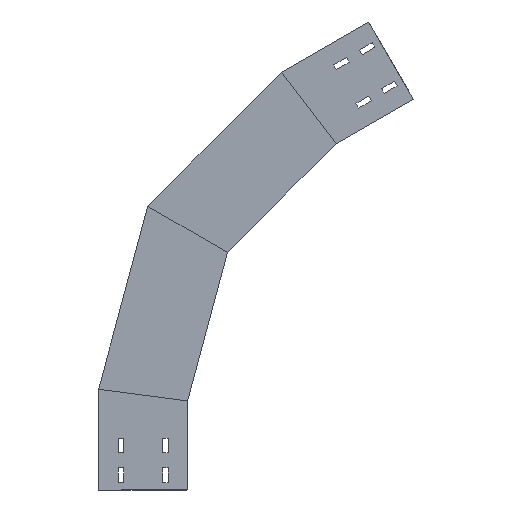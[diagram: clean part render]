
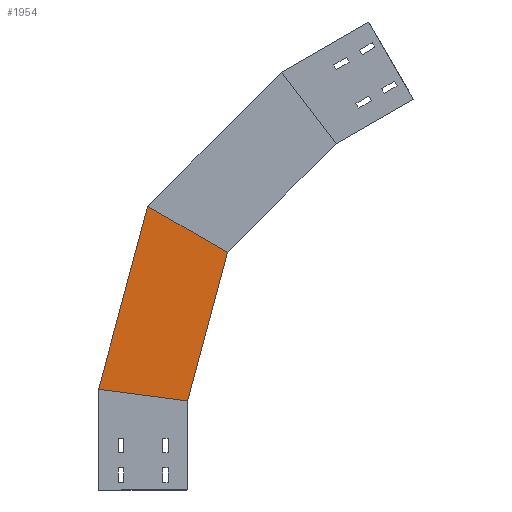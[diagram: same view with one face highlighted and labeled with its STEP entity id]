
A CAD part, left-side view. The second image highlights one B-rep face of the part: STEP entity #1954.
In plain terms, the highlighted planar face has unit normal (-1, 0, 0) as drawn and (1, 0, 0) by its records, which use the part's own axes.
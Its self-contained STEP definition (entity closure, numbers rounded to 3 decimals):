
#35 = LINE ( 'NONE', #1918, #353 ) ;
#43 = CARTESIAN_POINT ( 'NONE',  ( 0., -274.276, 551.906 ) ) ;
#86 = DIRECTION ( 'NONE',  ( 1., 0., 0. ) ) ;
#133 = VERTEX_POINT ( 'NONE', #1690 ) ;
#180 = EDGE_LOOP ( 'NONE', ( #1533, #1676, #1175, #1488 ) ) ;
#218 = LINE ( 'NONE', #43, #1038 ) ;
#223 = VECTOR ( 'NONE', #1489, 1000. ) ;
#264 = PLANE ( 'NONE',  #1464 ) ;
#353 = VECTOR ( 'NONE', #911, 1000. ) ;
#372 = DIRECTION ( 'NONE',  ( 0., -0.866, -0.5 ) ) ;
#539 = LINE ( 'NONE', #1232, #1164 ) ;
#911 = DIRECTION ( 'NONE',  ( 0., -0.707, 0.707 ) ) ;
#1038 = VECTOR ( 'NONE', #1218, 1000. ) ;
#1114 = FACE_OUTER_BOUND ( 'NONE', #180, .T. ) ;
#1164 = VECTOR ( 'NONE', #372, 1000. ) ;
#1175 = ORIENTED_EDGE ( 'NONE', *, *, #1429, .F. ) ;
#1218 = DIRECTION ( 'NONE',  ( 0., -0.609, -0.793 ) ) ;
#1232 = CARTESIAN_POINT ( 'NONE',  ( 0., -129.979, 363.834 ) ) ;
#1290 = LINE ( 'NONE', #2042, #223 ) ;
#1307 = CARTESIAN_POINT ( 'NONE',  ( 0., 67.452, 477.821 ) ) ;
#1407 = VERTEX_POINT ( 'NONE', #1603 ) ;
#1429 = EDGE_CURVE ( 'NONE', #1407, #133, #35, .T. ) ;
#1447 = DIRECTION ( 'NONE',  ( 0., 0., -1. ) ) ;
#1464 = AXIS2_PLACEMENT_3D ( 'NONE', #1814, #86, #1447 ) ;
#1488 = ORIENTED_EDGE ( 'NONE', *, *, #2221, .F. ) ;
#1489 = DIRECTION ( 'NONE',  ( 0., -0.707, 0.707 ) ) ;
#1533 = ORIENTED_EDGE ( 'NONE', *, *, #1992, .T. ) ;
#1603 = CARTESIAN_POINT ( 'NONE',  ( 0., -67.034, 400.175 ) ) ;
#1668 = VERTEX_POINT ( 'NONE', #2218 ) ;
#1676 = ORIENTED_EDGE ( 'NONE', *, *, #1835, .T. ) ;
#1690 = CARTESIAN_POINT ( 'NONE',  ( 0., -250.175, 583.315 ) ) ;
#1814 = CARTESIAN_POINT ( 'NONE',  ( 0., -35.701, 368.842 ) ) ;
#1835 = EDGE_CURVE ( 'NONE', #1668, #133, #218, .T. ) ;
#1918 = CARTESIAN_POINT ( 'NONE',  ( 0., -35.701, 368.842 ) ) ;
#1920 = VERTEX_POINT ( 'NONE', #1307 ) ;
#1954 = ADVANCED_FACE ( 'NONE', ( #1114 ), #264, .T. ) ;
#1992 = EDGE_CURVE ( 'NONE', #1920, #1668, #1290, .T. ) ;
#2042 = CARTESIAN_POINT ( 'NONE',  ( 0., 70.365, 474.908 ) ) ;
#2218 = CARTESIAN_POINT ( 'NONE',  ( 0., -158.073, 703.345 ) ) ;
#2221 = EDGE_CURVE ( 'NONE', #1920, #1407, #539, .T. ) ;
